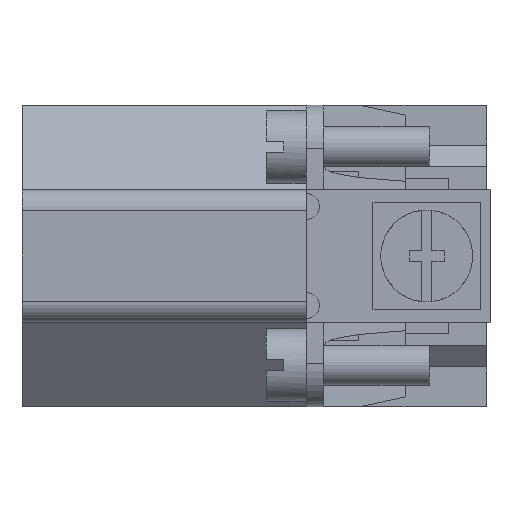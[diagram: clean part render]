
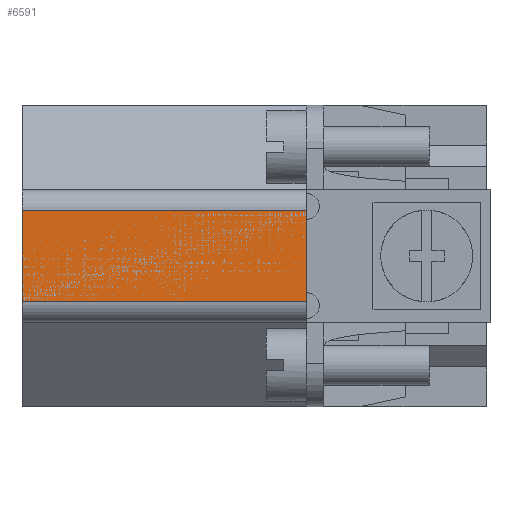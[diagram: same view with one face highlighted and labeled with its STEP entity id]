
A CAD part, left-side view. The second image highlights one B-rep face of the part: STEP entity #6591.
In plain terms, the highlighted planar face has unit normal (-1, 0, 0).
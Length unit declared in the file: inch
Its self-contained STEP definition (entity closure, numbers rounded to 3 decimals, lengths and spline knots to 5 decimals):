
#6510 = EDGE_CURVE ( 'NONE', #6511, #6512, #32921, .T. ) ;
#6511 = VERTEX_POINT ( 'NONE', #32917 ) ;
#6512 = VERTEX_POINT ( 'NONE', #32916 ) ;
#6513 = ORIENTED_EDGE ( 'NONE', *, *, #6514, .T. ) ;
#6514 = EDGE_CURVE ( 'NONE', #6512, #6515, #32915, .T. ) ;
#6515 = VERTEX_POINT ( 'NONE', #32911 ) ;
#6516 = ORIENTED_EDGE ( 'NONE', *, *, #6517, .F. ) ;
#6517 = EDGE_CURVE ( 'NONE', #6518, #6515, #32910, .T. ) ;
#6518 = VERTEX_POINT ( 'NONE', #32906 ) ;
#6576 = ORIENTED_EDGE ( 'NONE', *, *, #6577, .T. ) ;
#6577 = EDGE_CURVE ( 'NONE', #6518, #6511, #33044, .T. ) ;
#6591 = ADVANCED_FACE ( 'NONE', ( #33144 ), #33182, .F. ) ;
#6592 = EDGE_LOOP ( 'NONE', ( #6593, #6513, #6516, #6576 ) ) ;
#6593 = ORIENTED_EDGE ( 'NONE', *, *, #6510, .T. ) ;
#32906 = CARTESIAN_POINT ( 'NONE',  ( -1.095, 0.52, -0.13 ) ) ;
#32907 = DIRECTION ( 'NONE',  ( 0., 1., 0. ) ) ;
#32908 = VECTOR ( 'NONE', #32907, 39.37008 ) ;
#32909 = CARTESIAN_POINT ( 'NONE',  ( -1.095, 0., -0.13 ) ) ;
#32910 = LINE ( 'NONE', #32909, #32908 ) ;
#32911 = CARTESIAN_POINT ( 'NONE',  ( -1.095, 1.34, -0.13 ) ) ;
#32912 = DIRECTION ( 'NONE',  ( 0., 0., -1. ) ) ;
#32913 = VECTOR ( 'NONE', #32912, 39.37008 ) ;
#32914 = CARTESIAN_POINT ( 'NONE',  ( -1.095, 1.34, -0.435 ) ) ;
#32915 = LINE ( 'NONE', #32914, #32913 ) ;
#32916 = CARTESIAN_POINT ( 'NONE',  ( -1.095, 1.34, 0.13 ) ) ;
#32917 = CARTESIAN_POINT ( 'NONE',  ( -1.095, 0.52, 0.13 ) ) ;
#32918 = DIRECTION ( 'NONE',  ( 0., 1., 0. ) ) ;
#32919 = VECTOR ( 'NONE', #32918, 39.37008 ) ;
#32920 = CARTESIAN_POINT ( 'NONE',  ( -1.095, 0., 0.13 ) ) ;
#32921 = LINE ( 'NONE', #32920, #32919 ) ;
#33042 = CARTESIAN_POINT ( 'NONE',  ( -1.095, 0.52, 0.435 ) ) ;
#33044 = LINE ( 'NONE', #33042, #33097 ) ;
#33096 = DIRECTION ( 'NONE',  ( 0., 0., 1. ) ) ;
#33097 = VECTOR ( 'NONE', #33096, 39.37008 ) ;
#33144 = FACE_OUTER_BOUND ( 'NONE', #6592, .T. ) ;
#33178 = DIRECTION ( 'NONE',  ( 0., 0., 1. ) ) ;
#33179 = DIRECTION ( 'NONE',  ( 1., 0., 0. ) ) ;
#33180 = CARTESIAN_POINT ( 'NONE',  ( -1.095, 1.34, -0.435 ) ) ;
#33181 = AXIS2_PLACEMENT_3D ( 'NONE', #33180, #33179, #33178 ) ;
#33182 = PLANE ( 'NONE',  #33181 ) ;
